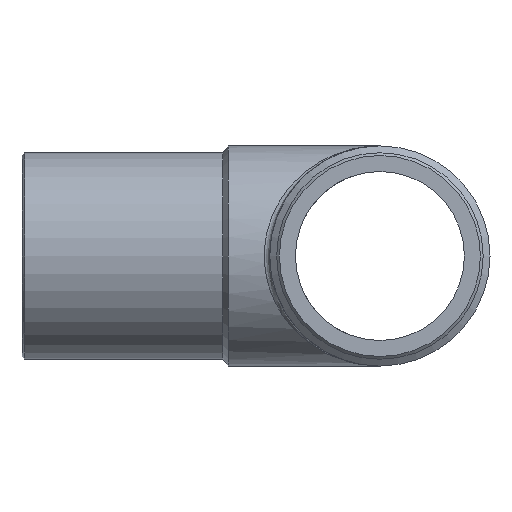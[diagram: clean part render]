
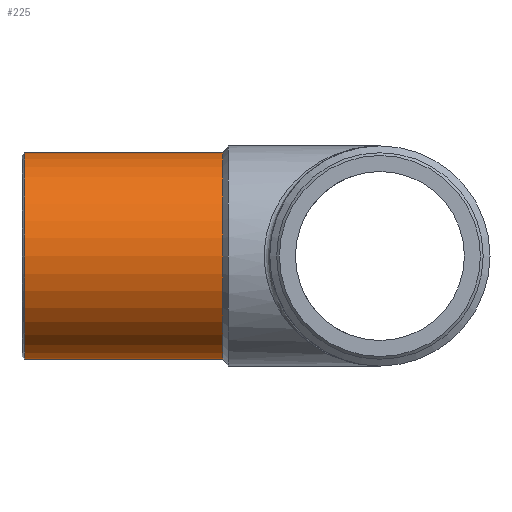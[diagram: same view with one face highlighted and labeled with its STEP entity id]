
A CAD part, left-side view. The second image highlights one B-rep face of the part: STEP entity #225.
In plain terms, the highlighted cylindrical face has radius 37.5 mm (diameter 75 mm), a full revolution.
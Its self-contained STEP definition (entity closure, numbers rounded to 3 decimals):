
#44=CIRCLE('',#275,37.5);
#45=CIRCLE('',#277,37.5);
#76=ORIENTED_EDGE('',*,*,#108,.T.);
#77=ORIENTED_EDGE('',*,*,#107,.F.);
#107=EDGE_CURVE('',#126,#126,#44,.T.);
#108=EDGE_CURVE('',#127,#127,#45,.F.);
#126=VERTEX_POINT('',#407);
#127=VERTEX_POINT('',#410);
#160=EDGE_LOOP('',(#76));
#161=EDGE_LOOP('',(#77));
#196=FACE_BOUND('',#160,.T.);
#197=FACE_BOUND('',#161,.T.);
#212=CYLINDRICAL_SURFACE('',#276,37.5);
#225=ADVANCED_FACE('',(#196,#197),#212,.T.);
#275=AXIS2_PLACEMENT_3D('',#406,#345,#346);
#276=AXIS2_PLACEMENT_3D('',#408,#347,#348);
#277=AXIS2_PLACEMENT_3D('',#409,#349,#350);
#345=DIRECTION('',(0.,-1.,0.));
#346=DIRECTION('',(1.,0.,0.));
#347=DIRECTION('',(0.,-1.,0.));
#348=DIRECTION('',(1.,0.,0.));
#349=DIRECTION('',(0.,1.,0.));
#350=DIRECTION('',(-1.,0.,0.));
#406=CARTESIAN_POINT('',(0.,57.,0.));
#407=CARTESIAN_POINT('',(37.5,57.,0.));
#408=CARTESIAN_POINT('',(0.,0.,0.));
#409=CARTESIAN_POINT('',(0.,129.,0.));
#410=CARTESIAN_POINT('',(-37.5,129.,0.));
